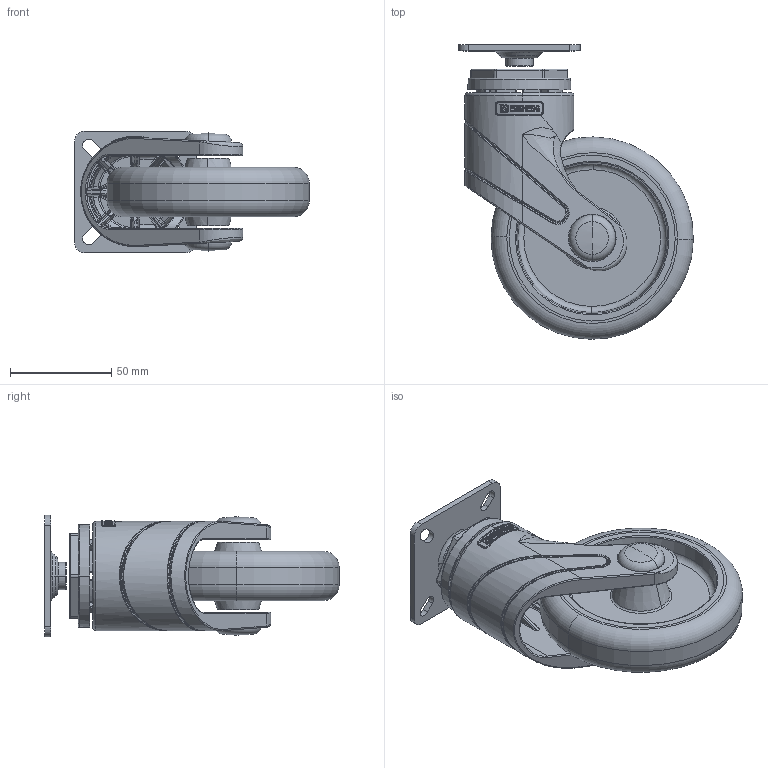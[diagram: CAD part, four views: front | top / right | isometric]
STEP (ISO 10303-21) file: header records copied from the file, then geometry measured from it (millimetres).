
FILE_DESCRIPTION((''),'2;1');
FILE_NAME('PRT0005','2025-12-17T10:56:54',('Administrator'),(''),'CREO PARAMETRIC BY PTC INC, 2022124','CREO PARAMETRIC BY PTC INC, 2022124','');
FILE_SCHEMA(('AUTOMOTIVE_DESIGN { 1 0 10303 214 1 1 1 1 }'));
Products named in the file (1): PRT0005
Bounding box: 116 x 145.5 x 60 mm (x, y, z)
Surface area: 66635.6 mm2 (no closed solid volume)
Topology: 0 solids, 27 shells, 468 faces, 1809 edges, 1327 vertices
Faces by surface type: bspline 154, cylinder 117, plane 83, torus 68, cone 41, sphere 5
Entity records: 37284 total; most frequent: CARTESIAN_POINT 21012, ORIENTED_EDGE 2640, DIRECTION 2210, EDGE_CURVE 1805, VERTEX_POINT 1327, AXIS2_PLACEMENT_3D 920, B_SPLINE_CURVE_WITH_KNOTS 842, CIRCLE 596
